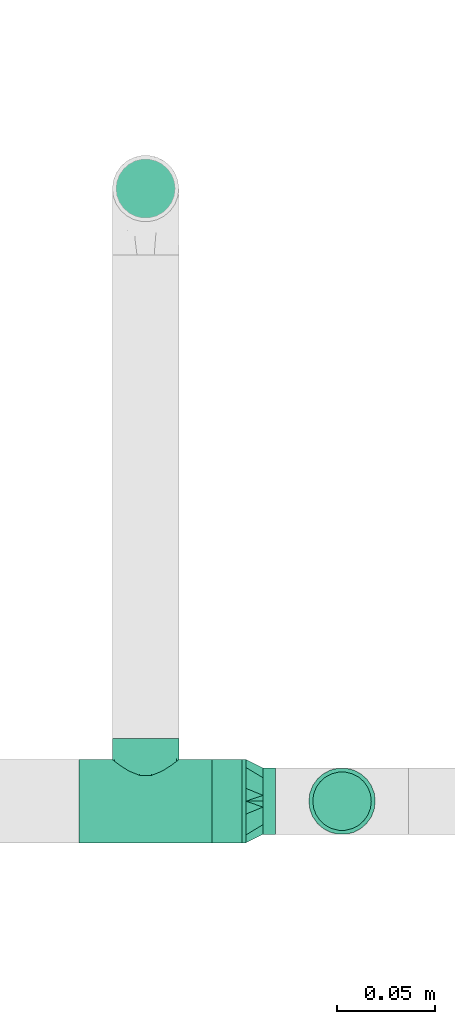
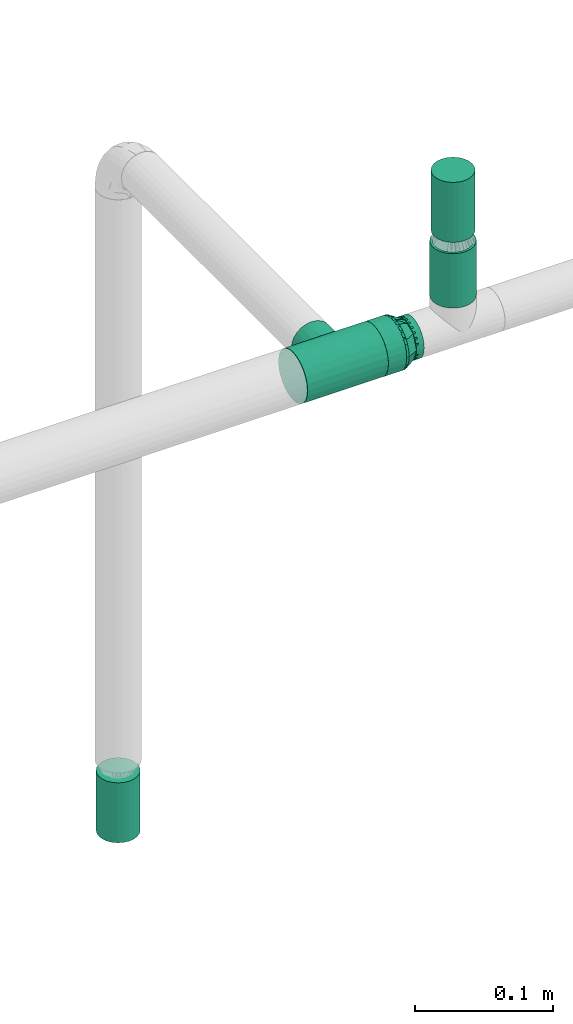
# One storey, part 42 of 51: 3 flow segments, 2 flow fittings, 2 flow terminals.
"""IFC2X3 building model written with IfcOpenShell, lengths in millimetres."""

from ifc_helpers import new_model, entity, si_unit, converted_unit, derived_unit, direction, frame, origin_with_axes, origin_2d_with_axis, place, context, subcontext, project, spatial, hollow_circle, extrude, open_shell, surface_model, source, transform, mapped, type_object, element, save


model = new_model("IFC2X3")

# Units and contexts
model_context = context("Model", 3, precision=0.01, world=frame((0.0, 4.29681676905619e-09, 0.0)), true_north=direction((4.01073788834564e-13, 1.0)))
plan_context = context("Plan", 3, precision=0.01, world=frame((0.0, 4.29681676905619e-09, 0.0)), true_north=direction((4.01073788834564e-13, 1.0)))
body_context = subcontext(model_context, "Body", "Model", "MODEL_VIEW")
ifc_project = project(units=[converted_unit("PLANEANGLEUNIT", "DEGREE", entity("IfcPositiveLengthMeasure", 0.0174532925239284), si_unit("PLANEANGLEUNIT", "RADIAN"), dimensions=[0, 0, 0, 0, 0, 0, 0]), si_unit("AREAUNIT", "SQUARE_METRE"), si_unit("LENGTHUNIT", "METRE", prefix="MILLI"), si_unit("MASSUNIT", "GRAM", prefix="KILO"), si_unit("POWERUNIT", "WATT"), si_unit("PRESSUREUNIT", "PASCAL"), si_unit("FORCEUNIT", "NEWTON", prefix="KILO"), si_unit("ELECTRICVOLTAGEUNIT", "VOLT"), si_unit("ELECTRICCURRENTUNIT", "AMPERE"), si_unit("THERMODYNAMICTEMPERATUREUNIT", "DEGREE_CELSIUS"), si_unit("TIMEUNIT", "SECOND"), si_unit("VOLUMEUNIT", "CUBIC_METRE"), derived_unit("LINEARVELOCITYUNIT", [(si_unit("LENGTHUNIT", "METRE"), 1), (si_unit("TIMEUNIT", "SECOND"), -1)]), derived_unit("VOLUMETRICFLOWRATEUNIT", [(si_unit("VOLUMEUNIT", "CUBIC_METRE"), 1), (si_unit("TIMEUNIT", "SECOND"), -1)]), derived_unit("THERMALTRANSMITTANCEUNIT", [(si_unit("POWERUNIT", "WATT"), 1), (si_unit("THERMODYNAMICTEMPERATUREUNIT", "KELVIN"), -1), (si_unit("AREAUNIT", "SQUARE_METRE"), -1)]), derived_unit("SOUNDPRESSUREUNIT", [(si_unit("PRESSUREUNIT", "PASCAL"), 1)])], contexts=[model_context, plan_context])

# Site, building, storey
site_placement = place(None, frame((0.0, -4.29681676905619e-09, 0.0), z_axis=(0.0, 0.0, 1.0), x_axis=(1.0, 0.0, 0.0)))
site = spatial("IfcSite", under=ifc_project, at=site_placement, Name="ENGM", CompositionType="ELEMENT")
building_placement = place(site_placement, frame((0.0, 4.29681676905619e-09, 0.0), z_axis=(0.0, 0.0, 1.0), x_axis=(1.0, 0.0, 0.0)))
building = spatial("IfcBuilding", under=site, at=building_placement, Name="TH", CompositionType="ELEMENT")
storey_placement = place(building_placement, frame((0.0, 0.0, 210200.0), z_axis=(0.0, 0.0, 1.0), x_axis=(1.0, 0.0, 0.0)))
storey = spatial("IfcBuildingStorey", under=building, at=storey_placement, Name="Nivå F - 0,7 m", CompositionType="ELEMENT", Elevation=210200.0)

# Flow fittings
pipe_fitting_type_1 = type_object("IfcPipeFittingType", Name="magi_pipe_fe_reducer_centric_short_NOR", PredefinedType="TRANSITION")
shared_shape_1 = source(origin_with_axes(), body_context, "Body", "SurfaceModel", [
    surface_model("IfcShellBasedSurfaceModel", [(10.6, 4.37404, -16.32415), (10.6, 8.45, -14.63583), (10.6, 11.9501, -11.9501), (10.6, -8.45, -14.63583), (10.6, 16.32415, -4.37404), (10.6, 16.32415, 4.37404), (10.6, 14.63583, -8.45), (10.6, 0.0, -16.9), (10.6, -4.37404, -16.32415), (10.6, -11.9501, -11.9501), (10.6, -16.32415, -4.37404), (10.6, -14.63583, -8.45), (10.6, -16.32415, 4.37404), (10.6, 16.9, 0.0), (10.6, 14.63583, 8.45), (10.6, 11.9501, 11.9501), (10.6, 4.37404, 16.32415), (10.6, 8.45, 14.63583), (10.6, 0.0, 16.9), (10.6, -14.63583, 8.45), (10.6, -16.9, 0.0), (10.6, -8.45, 14.63583), (10.6, -11.9501, 11.9501), (10.6, -4.37404, 16.32415), (8.6, 4.37404, 16.32415), (8.6, -14.63583, 8.45), (8.6, 0.0, 16.9), (8.6, 16.32415, 4.37404), (8.6, 8.45, 14.63583), (8.6, 11.9501, 11.9501), (8.6, 14.63583, 8.45), (8.6, -8.45, 14.63583), (8.6, -11.9501, 11.9501), (8.6, -4.37404, 16.32415), (8.6, -16.32415, 4.37404), (8.6, -16.32415, -4.37404), (8.6, -16.9, 0.0), (8.6, -8.45, -14.63583), (8.6, 16.32415, -4.37404), (8.6, 11.9501, -11.9501), (8.6, 14.63583, -8.45), (8.6, 8.45, -14.63583), (8.6, 4.37404, -16.32415), (8.6, 0.0, -16.9), (8.6, -11.9501, -11.9501), (8.6, -14.63583, -8.45), (8.6, -4.37404, -16.32415), (8.6, 16.9, 0.0), (-2.0, 0.0, 21.2), (-2.0, 5.48696, 20.47763), (-2.0, 10.6, 18.35974), (-2.0, 14.99066, 14.99066), (-2.0, 18.35974, 10.6), (-2.0, 20.47763, 5.48696), (-2.0, -21.2, 0.0), (-2.0, -14.99066, -14.99066), (-2.0, -5.48696, 20.47763), (-2.0, -14.99066, 14.99066), (-2.0, -10.6, 18.35974), (-2.0, -18.35974, 10.6), (-2.0, -20.47763, 5.48696), (-2.0, 20.47763, -5.48696), (-2.0, 10.6, -18.35974), (-2.0, 14.99066, -14.99066), (-2.0, 18.35974, -10.6), (-2.0, 5.48696, -20.47763), (-2.0, 0.0, -21.2), (-2.0, -18.35974, -10.6), (-2.0, -20.47763, -5.48696), (-2.0, -10.6, -18.35974), (-2.0, -5.48696, -20.47763), (-2.0, 21.2, 0.0), (0.0, 10.6, -18.35974), (0.0, 0.0, -21.2), (0.0, 5.48696, -20.47763), (0.0, 20.47763, -5.48696), (0.0, 14.99066, -14.99066), (0.0, -21.2, 0.0), (0.0, -14.99066, -14.99066), (0.0, 18.35974, -10.6), (0.0, -10.6, -18.35974), (0.0, -5.48696, -20.47763), (0.0, -18.35974, -10.6), (0.0, -20.47763, -5.48696), (0.0, -18.35974, 10.6), (0.0, 21.2, 0.0), (0.0, 20.47763, 5.48696), (0.0, 18.35974, 10.6), (0.0, 14.99066, 14.99066), (0.0, 0.0, 21.2), (0.0, 10.6, 18.35974), (0.0, 5.48696, 20.47763), (0.0, -14.99066, 14.99066), (0.0, -20.47763, 5.48696), (0.0, -5.48696, 20.47763), (0.0, -10.6, 18.35974), (0.0, 6.55116, 20.1624), (0.0, 17.15116, 12.46105), (0.0, -17.15116, 12.46105), (0.0, -6.55116, 20.1624), (0.0, 6.55116, -20.1624), (0.0, 17.15116, -12.46105), (0.0, -6.55116, -20.1624), (0.0, -17.15116, -12.46105), (8.6, -13.18758, -8.96258), (0.0, 11.85116, -16.31172), (0.0, 14.50116, -14.38638), (8.6, -14.42505, -5.97505), (0.0, -19.17558, -6.23052), (0.0, -18.16337, -9.34579), (8.6, 5.97505, -14.42505), (8.6, 14.42505, -5.97505), (0.0, 19.17558, -6.23052), (0.0, 0.0, -20.1624), (8.6, 2.98753, -15.66253), (8.6, 13.18758, -8.96258), (8.6, -2.98753, -15.66253), (8.6, 15.66253, -2.98753), (8.6, -15.66253, -2.98753), (0.0, -11.85116, -16.31172), (8.6, -5.97505, -14.42505), (8.6, -8.96258, -13.18758), (8.6, 8.96258, -13.18758), (8.6, 13.18758, 8.96258), (0.0, -11.85116, 16.31172), (0.0, -14.50116, 14.38638), (8.6, 14.42505, 5.97505), (0.0, 19.17558, 6.23052), (0.0, 18.16337, 9.34579), (8.6, -5.97505, 14.42505), (8.6, -14.42505, 5.97505), (0.0, -19.17558, 6.23052), (0.0, 0.0, 20.1624), (8.6, -2.98753, 15.66253), (8.6, -13.18758, 8.96258), (8.6, 2.98753, 15.66253), (8.6, -15.66253, 2.98753), (8.6, 15.66253, 2.98753), (0.0, 11.85116, 16.31172), (8.6, 5.97505, 14.42505), (8.6, 8.96258, 13.18758), (8.6, -8.96258, 13.18758)], [open_shell([[[0, 1, 2]], [[3, 0, 2]], [[2, 4, 5]], [[4, 2, 6]], [[2, 5, 3]], [[7, 3, 8]], [[7, 0, 3]], [[9, 10, 11]], [[10, 9, 3]], [[3, 12, 10]], [[5, 4, 13]], [[5, 14, 15]], [[5, 15, 16]], [[16, 12, 3]], [[16, 15, 17]], [[12, 16, 18]], [[18, 19, 12]], [[20, 10, 12]], [[19, 21, 22]], [[19, 18, 21]], [[21, 18, 23]], [[3, 5, 16]], [[24, 25, 26]], [[27, 24, 28]], [[29, 30, 27]], [[29, 27, 28]], [[25, 24, 27]], [[31, 25, 32]], [[31, 33, 26]], [[26, 25, 31]], [[34, 25, 27]], [[34, 35, 36]], [[34, 27, 37]], [[27, 38, 39]], [[39, 38, 40]], [[39, 41, 42]], [[37, 27, 39]], [[42, 43, 39]], [[35, 44, 45]], [[44, 35, 37]], [[37, 43, 46]], [[35, 34, 37]], [[39, 43, 37]], [[38, 27, 47]], [[35, 10, 36]], [[45, 11, 35]], [[3, 44, 37]], [[45, 44, 9]], [[8, 37, 46]], [[35, 11, 10]], [[10, 20, 36]], [[8, 3, 37]], [[9, 44, 3]], [[9, 11, 45]], [[7, 8, 46]], [[46, 43, 7]], [[42, 0, 43]], [[41, 1, 42]], [[6, 39, 40]], [[41, 39, 2]], [[4, 40, 38]], [[41, 2, 1]], [[1, 0, 42]], [[13, 4, 38]], [[6, 40, 4]], [[6, 2, 39]], [[47, 13, 38]], [[43, 0, 7]], [[27, 5, 47]], [[30, 14, 27]], [[17, 29, 28]], [[30, 29, 15]], [[16, 28, 24]], [[27, 14, 5]], [[5, 13, 47]], [[16, 17, 28]], [[15, 29, 17]], [[15, 14, 30]], [[18, 16, 24]], [[24, 26, 18]], [[33, 23, 26]], [[31, 21, 33]], [[19, 32, 25]], [[31, 32, 22]], [[12, 25, 34]], [[31, 22, 21]], [[21, 23, 33]], [[20, 12, 34]], [[19, 25, 12]], [[19, 22, 32]], [[36, 20, 34]], [[26, 23, 18]], [[48, 49, 50]], [[48, 50, 51]], [[51, 52, 53]], [[51, 53, 48]], [[54, 48, 55]], [[56, 57, 58]], [[56, 48, 57]], [[59, 54, 60]], [[57, 48, 59]], [[48, 54, 59]], [[48, 53, 55]], [[53, 61, 62]], [[63, 61, 64]], [[55, 53, 62]], [[62, 61, 63]], [[65, 66, 62]], [[54, 67, 68]], [[55, 67, 54]], [[69, 66, 70]], [[69, 55, 62]], [[66, 69, 62]], [[61, 53, 71]], [[72, 73, 74]], [[75, 72, 76]], [[77, 78, 72]], [[75, 76, 79]], [[75, 77, 72]], [[73, 80, 81]], [[73, 72, 80]], [[82, 77, 83]], [[80, 72, 78]], [[82, 78, 77]], [[84, 75, 85]], [[86, 87, 88]], [[86, 88, 89]], [[90, 91, 89]], [[90, 89, 88]], [[86, 89, 92]], [[77, 84, 93]], [[75, 84, 77]], [[92, 94, 95]], [[84, 86, 92]], [[89, 94, 92]], [[84, 85, 86]], [[68, 83, 54]], [[67, 82, 68]], [[80, 55, 69]], [[67, 55, 78]], [[81, 69, 70]], [[68, 82, 83]], [[83, 77, 54]], [[81, 80, 69]], [[78, 55, 80]], [[78, 82, 67]], [[73, 81, 70]], [[70, 66, 73]], [[65, 74, 66]], [[62, 72, 65]], [[79, 63, 64]], [[62, 63, 76]], [[75, 64, 61]], [[62, 76, 72]], [[72, 74, 65]], [[85, 75, 61]], [[79, 64, 75]], [[79, 76, 63]], [[71, 85, 61]], [[66, 74, 73]], [[53, 86, 71]], [[52, 87, 53]], [[90, 51, 50]], [[52, 51, 88]], [[91, 50, 49]], [[53, 87, 86]], [[86, 85, 71]], [[91, 90, 50]], [[88, 51, 90]], [[88, 87, 52]], [[89, 91, 49]], [[49, 48, 89]], [[56, 94, 48]], [[58, 95, 56]], [[84, 57, 59]], [[58, 57, 92]], [[93, 59, 60]], [[58, 92, 95]], [[95, 94, 56]], [[77, 93, 60]], [[84, 59, 93]], [[84, 92, 57]], [[54, 77, 60]], [[48, 94, 89]], [[26, 32, 29]], [[47, 29, 32]], [[32, 43, 47]], [[43, 32, 44]], [[39, 47, 43]], [[44, 32, 36]], [[96, 97, 98]], [[96, 98, 99]], [[98, 97, 77]], [[97, 100, 77]], [[100, 97, 101]], [[77, 102, 103]], [[77, 100, 102]], [[101, 97, 85]], [[103, 44, 104]], [[39, 105, 106]], [[107, 108, 109]], [[105, 110, 100]], [[39, 106, 101]], [[111, 101, 112]], [[113, 114, 43]], [[101, 111, 115]], [[113, 116, 102]], [[85, 117, 112]], [[77, 118, 36]], [[44, 103, 119]], [[119, 120, 121]], [[77, 108, 118]], [[116, 113, 43]], [[100, 110, 114]], [[116, 120, 102]], [[100, 114, 113]], [[122, 110, 105]], [[117, 85, 47]], [[107, 118, 108]], [[103, 104, 109]], [[104, 107, 109]], [[39, 101, 115]], [[120, 119, 102]], [[121, 44, 119]], [[117, 111, 112]], [[105, 39, 122]], [[97, 29, 123]], [[32, 124, 125]], [[126, 127, 128]], [[124, 129, 99]], [[32, 125, 98]], [[130, 98, 131]], [[132, 133, 26]], [[98, 130, 134]], [[132, 135, 96]], [[77, 136, 131]], [[85, 137, 47]], [[29, 97, 138]], [[138, 139, 140]], [[85, 127, 137]], [[135, 132, 26]], [[99, 129, 133]], [[135, 139, 96]], [[99, 133, 132]], [[141, 129, 124]], [[136, 77, 36]], [[126, 137, 127]], [[97, 123, 128]], [[123, 126, 128]], [[32, 98, 134]], [[139, 138, 96]], [[140, 29, 138]], [[136, 130, 131]], [[124, 32, 141]]])]),
])
flow_fitting_1_placement = place(storey_placement, frame((903751.125, 486201.02538, 2949.56988), z_axis=(0.0, 0.0, 1.0), x_axis=(1.0, 0.0, 0.0)))
element("IfcFlowFitting", 1, at=flow_fitting_1_placement, inside=storey, type_object=pipe_fitting_type_1, Name="magi_pipe_fe_reducer_centric_short_NOR", context=body_context, shape_type="MappedRepresentation", body=[
    mapped(shared_shape_1, transform((0.0, 0.0, 0.0), scale=1.0)),
])
pipe_fitting_type_2 = type_object("IfcPipeFittingType", Name="magi_pipe_fe_tee_centric_90_NOR", PredefinedType="JUNCTION")
shared_shape_2 = source(origin_with_axes(), body_context, "Body", "SurfaceModel", [
    surface_model("IfcShellBasedSurfaceModel", [(-33.8, 0.0, -21.2), (-33.8, -5.48696, -20.47763), (-33.8, 5.48696, -20.47763), (-33.8, 10.6, -18.35974), (-33.8, 14.99066, -14.99066), (-33.8, -20.47763, 5.48696), (-33.8, 18.35974, -10.6), (-33.8, 10.6, 18.35974), (-33.8, -14.99066, -14.99066), (-33.8, -18.35974, -10.6), (-33.8, -10.6, -18.35974), (-33.8, -20.47763, -5.48696), (-33.8, -21.2, 0.0), (-33.8, 18.35974, 10.6), (-33.8, 20.47763, -5.48696), (-33.8, 20.47763, 5.48696), (-33.8, 21.2, 0.0), (-33.8, 14.99066, 14.99066), (-33.8, 5.48696, 20.47763), (-33.8, 0.0, 21.2), (-33.8, -18.35974, 10.6), (-33.8, -14.99066, 14.99066), (-33.8, -10.6, 18.35974), (-33.8, -5.48696, 20.47763), (33.8, 5.48696, -20.47763), (33.8, -5.48696, -20.47763), (33.8, 0.0, -21.2), (33.8, 14.99066, -14.99066), (33.8, 10.6, -18.35974), (33.8, 18.35974, -10.6), (33.8, 20.47763, -5.48696), (33.8, -21.2, 0.0), (33.8, -10.6, -18.35974), (33.8, -18.35974, -10.6), (33.8, -14.99066, -14.99066), (33.8, -20.47763, -5.48696), (33.8, -20.47763, 5.48696), (33.8, 21.2, 0.0), (33.8, 20.47763, 5.48696), (33.8, 18.35974, 10.6), (33.8, 10.6, 18.35974), (33.8, 14.99066, 14.99066), (33.8, 0.0, 21.2), (33.8, 5.48696, 20.47763), (33.8, -14.99066, 14.99066), (33.8, -18.35974, 10.6), (33.8, -10.6, 18.35974), (33.8, -5.48696, 20.47763), (16.9, -21.2, 0.0), (15.78624, -20.32327, 6.03364), (12.81343, -18.11115, 11.01935), (8.52479, -15.37862, 14.59239), (3.07939, -13.16482, 16.61708), (-16.9, -21.2, 0.0), (-15.78686, -20.32375, 6.032), (-8.52604, -15.37932, 14.59166), (-3.0848, -13.16609, 16.61608), (-12.81602, -18.11299, 11.01634), (3.07939, -13.16482, -16.61708), (12.81343, -18.11115, -11.01935), (8.52479, -15.37862, -14.59239), (15.78624, -20.32327, -6.03364), (-3.0848, -13.16609, -16.61608), (-8.52604, -15.37932, -14.59166), (-12.81602, -18.11299, -11.01634), (-15.78686, -20.32375, -6.032), (4.37404, -31.8, -16.32415), (-16.9, -31.8, 0.0), (0.0, -31.8, -16.9), (14.63583, -31.8, -8.45), (8.45, -31.8, -14.63583), (16.32415, -31.8, -4.37404), (11.9501, -31.8, -11.9501), (-11.9501, -31.8, -11.9501), (-8.45, -31.8, -14.63583), (-4.37404, -31.8, -16.32415), (-14.63583, -31.8, -8.45), (-16.32415, -31.8, -4.37404), (16.9, -31.8, 0.0), (8.45, -31.8, 14.63583), (16.32415, -31.8, 4.37404), (14.63583, -31.8, 8.45), (-8.45, -31.8, 14.63583), (11.9501, -31.8, 11.9501), (4.37404, -31.8, 16.32415), (-16.32415, -31.8, 4.37404), (-11.9501, -31.8, 11.9501), (-14.63583, -31.8, 8.45), (0.0, -31.8, 16.9), (-4.37404, -31.8, 16.32415), (-16.34343, -20.76188, 3.016), (16.34312, -20.76163, 3.01682), (-0.00271, -13.16546, 16.61658), (16.34312, -20.76163, -3.01682), (-0.00271, -13.16546, -16.61658), (-16.34343, -20.76188, -3.016)], [open_shell([[[0, 1, 2]], [[3, 2, 4]], [[5, 2, 1]], [[4, 2, 6]], [[6, 2, 7]], [[8, 9, 10]], [[1, 10, 9]], [[9, 11, 1]], [[12, 1, 11]], [[5, 1, 12]], [[13, 14, 6]], [[13, 15, 16]], [[6, 7, 13]], [[5, 7, 2]], [[17, 13, 7]], [[18, 7, 19]], [[20, 21, 5]], [[22, 5, 21]], [[23, 19, 22]], [[7, 5, 22]], [[22, 19, 7]], [[16, 14, 13]], [[24, 25, 26]], [[27, 24, 28]], [[29, 30, 24]], [[29, 24, 27]], [[31, 24, 30]], [[32, 33, 34]], [[33, 32, 25]], [[33, 31, 35]], [[31, 33, 25]], [[25, 24, 31]], [[30, 36, 31]], [[37, 38, 39]], [[37, 39, 40]], [[37, 40, 36]], [[40, 39, 41]], [[42, 40, 43]], [[36, 44, 45]], [[44, 36, 46]], [[46, 42, 47]], [[46, 36, 40]], [[40, 42, 46]], [[37, 36, 30]], [[31, 36, 48]], [[49, 48, 36]], [[36, 45, 49]], [[45, 44, 50]], [[51, 50, 44]], [[52, 51, 44]], [[44, 46, 52]], [[45, 50, 49]], [[53, 54, 5]], [[5, 12, 53]], [[54, 20, 5]], [[55, 56, 21]], [[20, 57, 21]], [[57, 20, 54]], [[21, 57, 55]], [[56, 22, 21]], [[52, 22, 56]], [[19, 47, 42]], [[23, 46, 47]], [[18, 42, 43]], [[39, 38, 15]], [[17, 40, 41]], [[13, 41, 39]], [[43, 40, 7]], [[16, 38, 37]], [[22, 46, 23]], [[23, 47, 19]], [[18, 19, 42]], [[43, 7, 18]], [[7, 40, 17]], [[13, 17, 41]], [[15, 13, 39]], [[38, 16, 15]], [[46, 22, 52]], [[6, 30, 29]], [[14, 37, 30]], [[4, 29, 27]], [[26, 25, 1]], [[2, 28, 24]], [[0, 24, 26]], [[27, 28, 3]], [[10, 25, 32]], [[16, 37, 14]], [[14, 30, 6]], [[4, 6, 29]], [[27, 3, 4]], [[3, 28, 2]], [[0, 2, 24]], [[1, 0, 26]], [[25, 10, 1]], [[32, 58, 10]], [[34, 59, 60]], [[59, 34, 33]], [[60, 58, 34]], [[34, 58, 32]], [[35, 31, 48]], [[35, 61, 33]], [[61, 35, 48]], [[33, 61, 59]], [[62, 63, 8]], [[8, 64, 9]], [[64, 8, 63]], [[62, 8, 10]], [[65, 53, 11]], [[65, 11, 9]], [[11, 53, 12]], [[65, 9, 64]], [[58, 62, 10]], [[66, 67, 68]], [[69, 66, 70]], [[69, 71, 66]], [[69, 70, 72]], [[67, 66, 71]], [[68, 73, 74]], [[74, 75, 68]], [[76, 67, 77]], [[73, 68, 76]], [[67, 76, 68]], [[71, 78, 67]], [[79, 78, 80]], [[79, 80, 81]], [[82, 67, 79]], [[79, 81, 83]], [[82, 79, 84]], [[85, 86, 87]], [[86, 85, 82]], [[82, 88, 89]], [[85, 67, 82]], [[84, 88, 82]], [[79, 67, 78]], [[85, 90, 67]], [[57, 87, 86]], [[85, 87, 54]], [[86, 82, 55]], [[85, 54, 90]], [[90, 53, 67]], [[54, 87, 57]], [[91, 49, 80]], [[55, 89, 56]], [[55, 57, 86]], [[88, 52, 92]], [[55, 82, 89]], [[52, 88, 84]], [[79, 51, 84]], [[50, 83, 81]], [[83, 51, 79]], [[81, 80, 49]], [[83, 50, 51]], [[51, 52, 84]], [[78, 91, 80]], [[49, 50, 81]], [[91, 78, 48]], [[88, 56, 89]], [[92, 56, 88]], [[71, 93, 78]], [[59, 69, 72]], [[71, 69, 61]], [[72, 70, 60]], [[93, 48, 78]], [[61, 69, 59]], [[60, 66, 58]], [[60, 59, 72]], [[68, 62, 94]], [[60, 70, 66]], [[95, 67, 53]], [[95, 65, 77]], [[71, 61, 93]], [[75, 62, 68]], [[65, 76, 77]], [[73, 76, 64]], [[68, 58, 66]], [[75, 63, 62]], [[63, 75, 74]], [[74, 73, 63]], [[63, 73, 64]], [[64, 76, 65]], [[67, 95, 77]], [[94, 58, 68]]])]),
])
flow_fitting_2_placement = place(storey_placement, frame((903700.0, 486201.02538, 2949.56988), z_axis=(0.0, 0.0, 1.0), x_axis=(-1.0, 0.0, 0.0)))
element("IfcFlowFitting", 2, at=flow_fitting_2_placement, inside=storey, type_object=pipe_fitting_type_2, Name="magi_pipe_fe_tee_centric_90_NOR", context=body_context, shape_type="MappedRepresentation", body=[
    mapped(shared_shape_2, transform((0.0, 0.0, 0.0), scale=1.0)),
])

# Flow segments
pipe_segment_type = type_object("IfcPipeSegmentType", Name="Stålrør normaltykke", PredefinedType="RIGIDSEGMENT")
shared_shape_3 = source(origin_with_axes(), body_context, "Body", "SweptSolid", [
    extrude(hollow_circle(Radius=16.9, WallThickness=2.0, at=origin_2d_with_axis()), frame((0.0, 0.0, 0.0), z_axis=(1.0, 0.0, 0.0), x_axis=(0.0, 1.0, 0.0)), (0.0, 0.0, 1.0), 48.2),
])
flow_segment_1_placement = place(storey_placement, frame((903800.0, 486201.02538, 3022.64799999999), z_axis=(0.0, 1.0, 0.0), x_axis=(0.0, 0.0, -1.0)))
element("IfcFlowSegment", 3, at=flow_segment_1_placement, inside=storey, type_object=pipe_segment_type, Name="Stålrør normaltykke", context=body_context, shape_type="MappedRepresentation", body=[
    mapped(shared_shape_3, transform((0.0, 0.0, 0.0), scale=1.0)),
])
shared_shape_4 = source(origin_with_axes(), body_context, "Body", "SweptSolid", [
    extrude(hollow_circle(Radius=21.2, WallThickness=2.0, at=origin_2d_with_axis()), frame((0.0, 0.0, 0.0), z_axis=(1.0, 0.0, 0.0), x_axis=(0.0, 1.0, 0.0)), (0.0, 0.0, 1.0), 17.3),
])
flow_segment_2_placement = place(storey_placement, frame((903733.8, 486201.02538, 2949.56988), z_axis=(0.0, 0.0, 1.0), x_axis=(1.0, 0.0, 0.0)))
element("IfcFlowSegment", 4, at=flow_segment_2_placement, inside=storey, type_object=pipe_segment_type, Name="Stålrør normaltykke", context=body_context, shape_type="MappedRepresentation", body=[
    mapped(shared_shape_4, transform((0.0, 0.0, 0.0), scale=1.0)),
])
shared_shape_5 = source(origin_with_axes(), body_context, "Body", "SweptSolid", [
    extrude(hollow_circle(Radius=16.9, WallThickness=2.0, at=origin_2d_with_axis()), frame((0.0, 0.0, 0.0), z_axis=(1.0, 0.0, 0.0), x_axis=(0.0, 1.0, 0.0)), (0.0, 0.0, 1.0), 6.5),
])
flow_segment_3_placement = place(storey_placement, frame((903759.725, 486201.02538, 2949.56988), z_axis=(0.0, 0.0, 1.0), x_axis=(1.0, 0.0, 0.0)))
element("IfcFlowSegment", 5, at=flow_segment_3_placement, inside=storey, type_object=pipe_segment_type, Name="Stålrør normaltykke", context=body_context, shape_type="MappedRepresentation", body=[
    mapped(shared_shape_5, transform((0.0, 0.0, 0.0), scale=1.0)),
])

# Flow terminals
fire_suppression_terminal_type_1 = type_object("IfcFireSuppressionTerminalType", Name="SP-15-K80-68DGR-STD-HIMLING", PredefinedType="NOTDEFINED")
shared_shape_6 = source(origin_with_axes(), body_context, "Body", "SurfaceModel", [
    surface_model("IfcShellBasedSurfaceModel", [(4.1411, -15.45481, 53.0), (8.0, -13.85641, 53.0), (11.31371, -11.31371, 53.0), (-8.0, -13.85641, 53.0), (15.45481, -4.1411, 53.0), (16.0, 0.0, 53.0), (13.85641, -8.0, 53.0), (0.0, -16.0, 53.0), (-4.1411, -15.45481, 53.0), (-13.85641, -8.0, 53.0), (-11.31371, -11.31371, 53.0), (-15.45481, -4.1411, 53.0), (15.45481, 4.1411, 53.0), (13.85641, 8.0, 53.0), (11.31371, 11.31371, 53.0), (-4.1411, 15.45481, 53.0), (8.0, 13.85641, 53.0), (4.1411, 15.45481, 53.0), (0.0, 16.0, 53.0), (-13.85641, 8.0, 53.0), (-15.45481, 4.1411, 53.0), (-16.0, 0.0, 53.0), (-11.31371, 11.31371, 53.0), (-8.0, 13.85641, 53.0), (0.0, 16.0, 0.0), (4.1411, 15.45481, 0.0), (8.0, 13.85641, 0.0), (-4.1411, 15.45481, 0.0), (11.31371, 11.31371, 0.0), (13.85641, 8.0, 0.0), (15.45481, 4.1411, 0.0), (-15.45481, -4.1411, 0.0), (-11.31371, 11.31371, 0.0), (-8.0, 13.85641, 0.0), (-13.85641, 8.0, 0.0), (-15.45481, 4.1411, 0.0), (-16.0, 0.0, 0.0), (4.1411, -15.45481, 0.0), (16.0, 0.0, 0.0), (15.45481, -4.1411, 0.0), (13.85641, -8.0, 0.0), (11.31371, -11.31371, 0.0), (8.0, -13.85641, 0.0), (-8.0, -13.85641, 0.0), (-13.85641, -8.0, 0.0), (-11.31371, -11.31371, 0.0), (0.0, -16.0, 0.0), (-4.1411, -15.45481, 0.0)], [open_shell([[[0, 1, 2]], [[3, 0, 2]], [[4, 5, 2]], [[4, 2, 6]], [[3, 2, 5]], [[7, 3, 8]], [[7, 0, 3]], [[3, 9, 10]], [[9, 3, 11]], [[5, 11, 3]], [[5, 12, 11]], [[12, 13, 14]], [[15, 12, 14]], [[16, 17, 18]], [[14, 16, 15]], [[18, 15, 16]], [[11, 19, 20]], [[21, 11, 20]], [[22, 15, 23]], [[15, 22, 19]], [[19, 11, 15]], [[11, 12, 15]], [[24, 25, 26]], [[27, 24, 26]], [[28, 29, 30]], [[27, 26, 28]], [[27, 28, 31]], [[27, 32, 33]], [[32, 27, 34]], [[34, 31, 35]], [[31, 34, 27]], [[35, 31, 36]], [[28, 30, 31]], [[37, 38, 39]], [[37, 39, 40]], [[41, 42, 37]], [[41, 37, 40]], [[38, 37, 43]], [[44, 43, 45]], [[43, 44, 31]], [[43, 46, 47]], [[43, 31, 38]], [[37, 46, 43]], [[38, 31, 30]], [[11, 31, 44]], [[45, 9, 44]], [[3, 43, 47]], [[45, 43, 10]], [[8, 47, 46]], [[31, 21, 36]], [[31, 11, 21]], [[44, 9, 11]], [[45, 10, 9]], [[3, 10, 43]], [[47, 8, 3]], [[46, 7, 8]], [[0, 37, 42]], [[41, 1, 42]], [[6, 40, 39]], [[41, 40, 2]], [[4, 39, 38]], [[37, 0, 7]], [[42, 1, 0]], [[41, 2, 1]], [[40, 6, 2]], [[4, 6, 39]], [[38, 5, 4]], [[37, 7, 46]], [[12, 38, 30]], [[13, 30, 29]], [[16, 26, 25]], [[17, 25, 24]], [[30, 13, 12]], [[12, 5, 38]], [[28, 14, 13]], [[28, 26, 14]], [[14, 26, 16]], [[25, 17, 16]], [[28, 13, 29]], [[24, 18, 17]], [[15, 27, 33]], [[32, 23, 33]], [[19, 34, 35]], [[32, 34, 22]], [[20, 35, 36]], [[27, 15, 18]], [[33, 23, 15]], [[32, 22, 23]], [[34, 19, 22]], [[20, 19, 35]], [[36, 21, 20]], [[27, 18, 24]]])]),
])
flow_terminal_1_placement = place(storey_placement, frame((903700.0, 486512.90642, 2400.0), z_axis=(0.0, 0.0, -1.0), x_axis=(-1.0, 0.0, 0.0)))
element("IfcFlowTerminal", 6, at=flow_terminal_1_placement, inside=storey, type_object=fire_suppression_terminal_type_1, Name="SP-15-K80-68DGR-STD-HIMLING", context=body_context, shape_type="MappedRepresentation", body=[
    mapped(shared_shape_6, transform((0.0, 0.0, 0.0), scale=1.0)),
])
fire_suppression_terminal_type_2 = type_object("IfcFireSuppressionTerminalType", Name="SP-15-K80-68DGR-STD-STÅENDE", PredefinedType="NOTDEFINED")
flow_terminal_2_placement = place(storey_placement, frame((903800.0, 486201.02538, 3032.0), z_axis=(0.0, 0.0, 1.0), x_axis=(1.0, 0.0, 0.0)))
element("IfcFlowTerminal", 7, at=flow_terminal_2_placement, inside=storey, type_object=fire_suppression_terminal_type_2, Name="SP-15-K80-68DGR-STD-STÅENDE", context=body_context, shape_type="MappedRepresentation", body=[
    mapped(shared_shape_6, transform((0.0, 0.0, 0.0), scale=1.0)),
])

save(model, "model.ifc")
